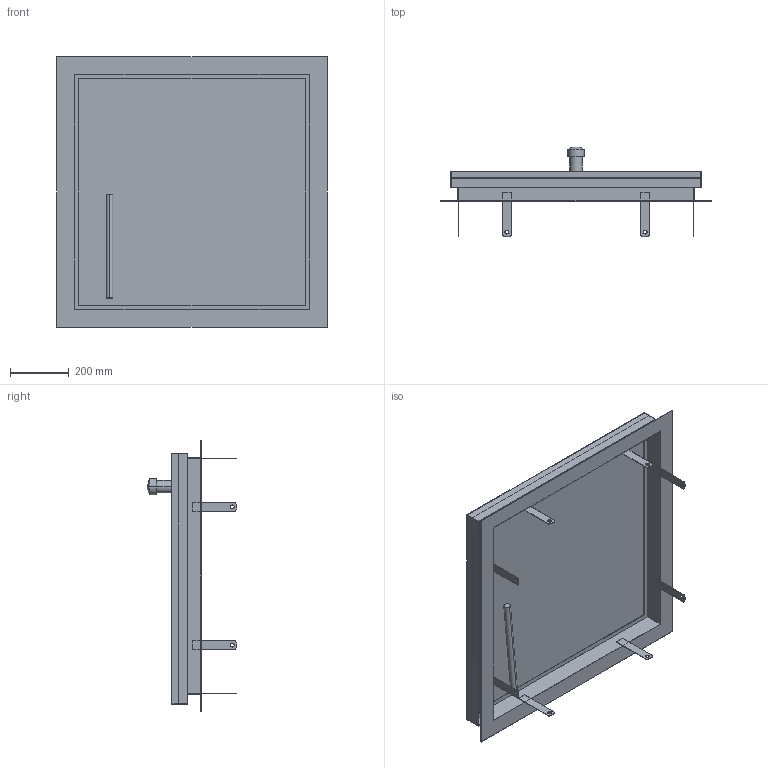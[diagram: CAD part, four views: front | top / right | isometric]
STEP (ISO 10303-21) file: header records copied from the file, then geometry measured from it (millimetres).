
FILE_DESCRIPTION((''),'2;1');
FILE_NAME('017_000105','2017-05-22T',('slc'),('HUBER SE'),'PRO/ENGINEER BY PARAMETRIC TECHNOLOGY CORPORATION, 2015280','PRO/ENGINEER BY PARAMETRIC TECHNOLOGY CORPORATION, 2015280','');
FILE_SCHEMA(('CONFIG_CONTROL_DESIGN'));
Length unit declared in the file: millimetre
Products named in the file (1): 017_000105
Bounding box: 920 x 304 x 920 mm (x, y, z)
Volume: 3969624.8 mm3; surface area: 4271612.1 mm2
Topology: 3 solids, 4 shells, 112 faces, 410 edges, 332 vertices
Faces by surface type: plane 80, cylinder 30, sphere 2
Entity records: 4152 total; most frequent: CARTESIAN_POINT 843, DIRECTION 649, ORIENTED_EDGE 560, VECTOR 299, LINE 299, EDGE_CURVE 280, VERTEX_POINT 181, AXIS2_PLACEMENT_3D 175
